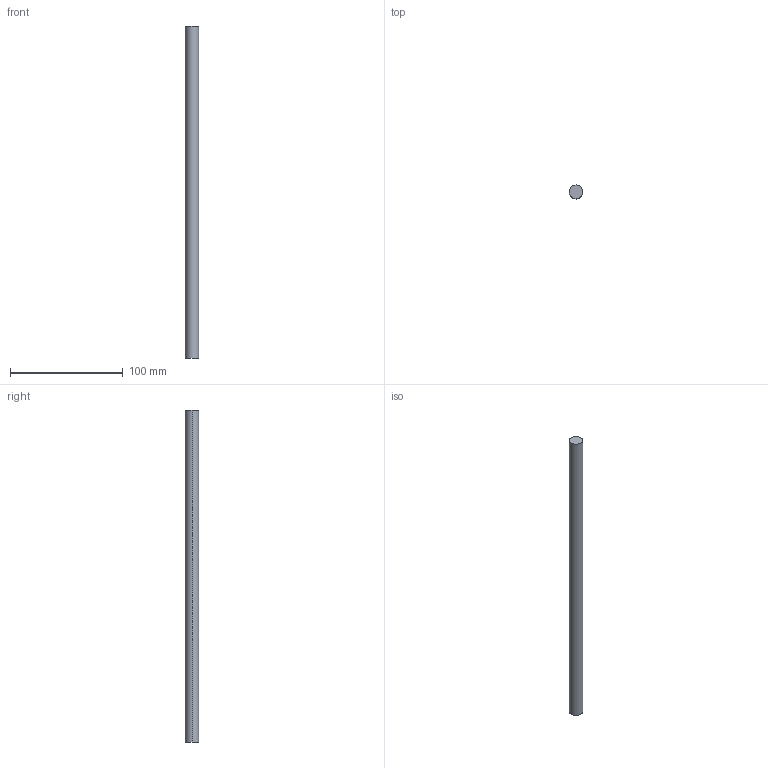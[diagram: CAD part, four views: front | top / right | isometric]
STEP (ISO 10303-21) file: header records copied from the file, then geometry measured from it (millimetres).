
FILE_DESCRIPTION (( 'STEP AP214' ), '1' );
FILE_NAME ('Magic Reling quer - S16_S17 - 400.step', '2010-09-07T14:56:06', ( 'grass' ), ( '' ), 'SwSTEP 2.0', 'SolidWorks 2010', '' );
FILE_SCHEMA (( 'AUTOMOTIVE_DESIGN' ));
Length unit declared in the file: millimetre
Products named in the file (1): Magic Reling quer - S16_S17 - 400
Bounding box: 12 x 12 x 295 mm (x, y, z)
Volume: 33363.7 mm3; surface area: 11347.4 mm2
Topology: 1 solids, 1 shells, 4 faces, 6 edges, 4 vertices
Faces by surface type: cylinder 2, plane 2
Entity records: 128 total; most frequent: DIRECTION 20, CARTESIAN_POINT 15, ORIENTED_EDGE 12, AXIS2_PLACEMENT_3D 9, EDGE_CURVE 6, EDGE_LOOP 4, FACE_OUTER_BOUND 4, CIRCLE 4
